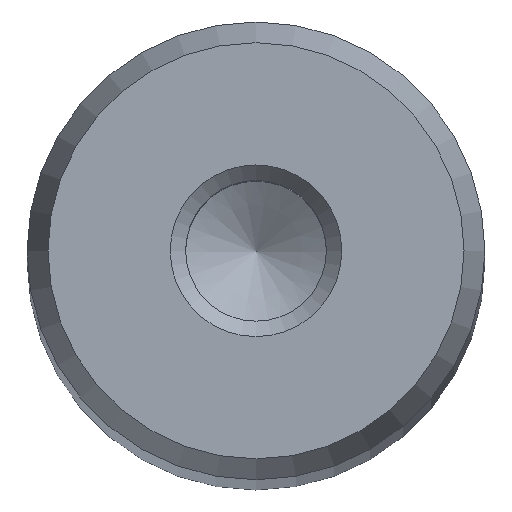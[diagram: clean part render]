
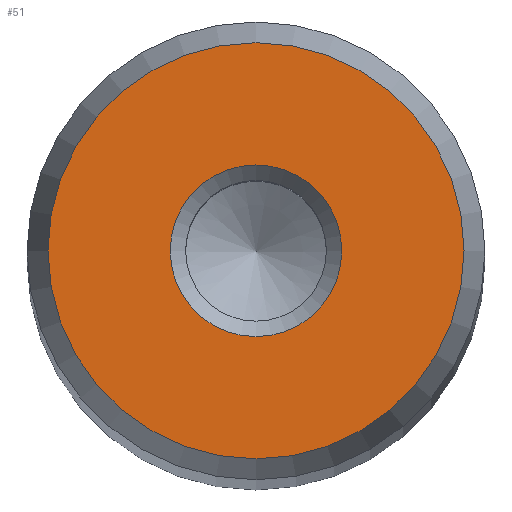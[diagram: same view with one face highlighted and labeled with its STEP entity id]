
A CAD part, top view. The second image highlights one B-rep face of the part: STEP entity #51.
In plain terms, the highlighted planar face has unit normal (0, 0, 1).
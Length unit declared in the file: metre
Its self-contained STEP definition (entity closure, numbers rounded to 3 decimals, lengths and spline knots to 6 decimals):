
#51 = ADVANCED_FACE( '', ( #108, #109 ), #110, .T. );
#108 = FACE_OUTER_BOUND( '', #167, .T. );
#109 = FACE_BOUND( '', #168, .T. );
#110 = PLANE( '', #169 );
#167 = EDGE_LOOP( '', ( #234 ) );
#168 = EDGE_LOOP( '', ( #235 ) );
#169 = AXIS2_PLACEMENT_3D( '', #236, #237, #238 );
#234 = ORIENTED_EDGE( '', *, *, #288, .T. );
#235 = ORIENTED_EDGE( '', *, *, #286, .T. );
#236 = CARTESIAN_POINT( '', ( 0., 0., 0.207 ) );
#237 = DIRECTION( '', ( 0., 0., 1. ) );
#238 = DIRECTION( '', ( 1., 0., 0. ) );
#286 = EDGE_CURVE( '', #323, #323, #324, .T. );
#288 = EDGE_CURVE( '', #326, #326, #327, .T. );
#323 = VERTEX_POINT( '', #360 );
#324 = CIRCLE( '', #361, 0.003 );
#326 = VERTEX_POINT( '', #363 );
#327 = CIRCLE( '', #364, 0.007272 );
#360 = CARTESIAN_POINT( '', ( 0.003, 0., 0.207 ) );
#361 = AXIS2_PLACEMENT_3D( '', #400, #401, #402 );
#363 = CARTESIAN_POINT( '', ( 0.007272, 0., 0.207 ) );
#364 = AXIS2_PLACEMENT_3D( '', #403, #404, #405 );
#400 = CARTESIAN_POINT( '', ( 0., 0., 0.207 ) );
#401 = DIRECTION( '', ( 0., 0., -1. ) );
#402 = DIRECTION( '', ( 1., 0., 0. ) );
#403 = CARTESIAN_POINT( '', ( 0., 0., 0.207 ) );
#404 = DIRECTION( '', ( 0., 0., 1. ) );
#405 = DIRECTION( '', ( 1., 0., 0. ) );
